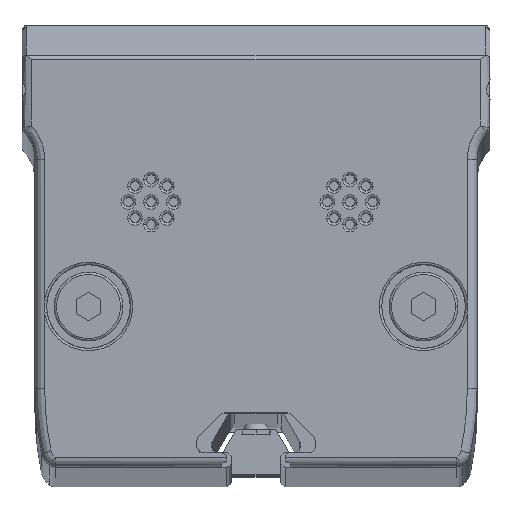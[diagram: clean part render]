
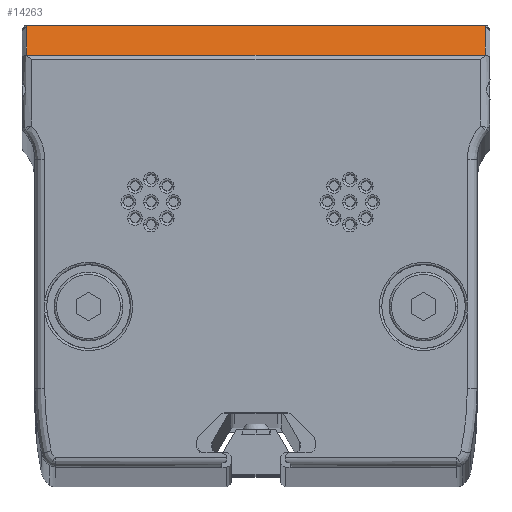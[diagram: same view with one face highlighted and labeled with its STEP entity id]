
A CAD part, top view. The second image highlights one B-rep face of the part: STEP entity #14263.
In plain terms, the highlighted planar face has unit normal (0, 0.858, 0.514).
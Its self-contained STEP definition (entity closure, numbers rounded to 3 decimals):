
#158 = ORIENTED_EDGE ( 'NONE', *, *, #14265, .T. ) ;
#220 = CARTESIAN_POINT ( 'NONE',  ( 23.82, 19.287, 1135.15 ) ) ;
#1118 = VERTEX_POINT ( 'NONE', #13181 ) ;
#1265 = EDGE_CURVE ( 'NONE', #13344, #29202, #17143, .T. ) ;
#2105 = ORIENTED_EDGE ( 'NONE', *, *, #21520, .T. ) ;
#3064 = CARTESIAN_POINT ( 'NONE',  ( -23.215, 22.429, 1129.914 ) ) ;
#3190 = CARTESIAN_POINT ( 'NONE',  ( -23.315, 22.387, 1129.983 ) ) ;
#3693 = EDGE_CURVE ( 'NONE', #23862, #23738, #7069, .T. ) ;
#3820 =( BOUNDED_CURVE ( )  B_SPLINE_CURVE ( 3, ( #23566, #21301, #3190, #19044 ),
 .UNSPECIFIED., .F., .F. ) 
 B_SPLINE_CURVE_WITH_KNOTS ( ( 4, 4 ),
 ( 0., 1.571 ),
 .UNSPECIFIED. ) 
 CURVE ( )  GEOMETRIC_REPRESENTATION_ITEM ( )  RATIONAL_B_SPLINE_CURVE ( ( 1., 0.805, 0.805, 1. ) ) 
 REPRESENTATION_ITEM ( '' )  );
#4631 = CARTESIAN_POINT ( 'NONE',  ( 23.315, 22.329, 1130.08 ) ) ;
#5667 = CARTESIAN_POINT ( 'NONE',  ( -23.315, 19.287, 1135.15 ) ) ;
#5806 = LINE ( 'NONE', #3064, #23891 ) ;
#5813 = CARTESIAN_POINT ( 'NONE',  ( -23.315, 22.329, 1130.08 ) ) ;
#5955 = EDGE_CURVE ( 'NONE', #27310, #27811, #5806, .T. ) ;
#6932 = CARTESIAN_POINT ( 'NONE',  ( 23.215, 22.429, 1129.914 ) ) ;
#7069 =( BOUNDED_CURVE ( )  B_SPLINE_CURVE ( 3, ( #22865, #25442, #27545, #9313 ),
 .UNSPECIFIED., .F., .T. ) 
 B_SPLINE_CURVE_WITH_KNOTS ( ( 4, 4 ),
 ( 4.712, 6.283 ),
 .UNSPECIFIED. ) 
 CURVE ( )  GEOMETRIC_REPRESENTATION_ITEM ( )  RATIONAL_B_SPLINE_CURVE ( ( 1., 0.805, 0.805, 1. ) ) 
 REPRESENTATION_ITEM ( '' )  );
#7171 = DIRECTION ( 'NONE',  ( 0., -0.857, -0.514 ) ) ;
#7293 = CARTESIAN_POINT ( 'NONE',  ( -23.315, 19.433, 1134.907 ) ) ;
#7387 = CARTESIAN_POINT ( 'NONE',  ( 23.215, 22.429, 1129.914 ) ) ;
#7519 = LINE ( 'NONE', #16904, #16164 ) ;
#8103 = ORIENTED_EDGE ( 'NONE', *, *, #26493, .T. ) ;
#9313 = CARTESIAN_POINT ( 'NONE',  ( 23.215, 22.429, 1129.914 ) ) ;
#9430 = LINE ( 'NONE', #27199, #29344 ) ;
#9473 = CARTESIAN_POINT ( 'NONE',  ( -23.215, 22.429, 1129.914 ) ) ;
#9800 = CARTESIAN_POINT ( 'NONE',  ( 23.215, 22.429, 1129.914 ) ) ;
#10787 = ORIENTED_EDGE ( 'NONE', *, *, #1265, .T. ) ;
#11392 = EDGE_LOOP ( 'NONE', ( #15380, #158, #15594, #8103, #16617, #2105, #10787 ) ) ;
#13181 = CARTESIAN_POINT ( 'NONE',  ( 23.315, 19.433, 1134.907 ) ) ;
#13344 = VERTEX_POINT ( 'NONE', #5813 ) ;
#13831 = FACE_OUTER_BOUND ( 'NONE', #11392, .T. ) ;
#14263 = ADVANCED_FACE ( 'NONE', ( #13831 ), #27816, .F. ) ;
#14265 = EDGE_CURVE ( 'NONE', #1118, #23862, #9430, .T. ) ;
#15380 = ORIENTED_EDGE ( 'NONE', *, *, #22570, .T. ) ;
#15594 = ORIENTED_EDGE ( 'NONE', *, *, #3693, .T. ) ;
#16150 = CARTESIAN_POINT ( 'NONE',  ( 23.215, 22.429, 1129.914 ) ) ;
#16164 = VECTOR ( 'NONE', #23505, 1000. ) ;
#16405 = DIRECTION ( 'NONE',  ( 0., 0.514, -0.857 ) ) ;
#16617 = ORIENTED_EDGE ( 'NONE', *, *, #5955, .T. ) ;
#16818 = VECTOR ( 'NONE', #19973, 1000. ) ;
#16904 = CARTESIAN_POINT ( 'NONE',  ( 23.82, 19.433, 1134.907 ) ) ;
#17143 = LINE ( 'NONE', #5667, #16818 ) ;
#18036 = DIRECTION ( 'NONE',  ( 0., 0.514, -0.857 ) ) ;
#19044 = CARTESIAN_POINT ( 'NONE',  ( -23.315, 22.329, 1130.08 ) ) ;
#19747 = AXIS2_PLACEMENT_3D ( 'NONE', #220, #7171, #16405 ) ;
#19973 = DIRECTION ( 'NONE',  ( 0., -0.514, 0.857 ) ) ;
#21301 = CARTESIAN_POINT ( 'NONE',  ( -23.274, 22.429, 1129.914 ) ) ;
#21520 = EDGE_CURVE ( 'NONE', #27811, #13344, #3820, .T. ) ;
#22570 = EDGE_CURVE ( 'NONE', #29202, #1118, #7519, .T. ) ;
#22865 = CARTESIAN_POINT ( 'NONE',  ( 23.315, 22.329, 1130.08 ) ) ;
#23212 = CARTESIAN_POINT ( 'NONE',  ( 23.215, 22.429, 1129.914 ) ) ;
#23505 = DIRECTION ( 'NONE',  ( 1., 0., 0. ) ) ;
#23566 = CARTESIAN_POINT ( 'NONE',  ( -23.215, 22.429, 1129.914 ) ) ;
#23600 = CARTESIAN_POINT ( 'NONE',  ( 23.215, 22.429, 1129.914 ) ) ;
#23738 = VERTEX_POINT ( 'NONE', #9800 ) ;
#23862 = VERTEX_POINT ( 'NONE', #4631 ) ;
#23891 = VECTOR ( 'NONE', #26279, 1000. ) ;
#24246 =( BOUNDED_CURVE ( )  B_SPLINE_CURVE ( 3, ( #6932, #16150, #23212, #7387 ),
 .UNSPECIFIED., .F., .F. ) 
 B_SPLINE_CURVE_WITH_KNOTS ( ( 4, 4 ),
 ( 6.283, 6.283 ),
 .UNSPECIFIED. ) 
 CURVE ( )  GEOMETRIC_REPRESENTATION_ITEM ( )  RATIONAL_B_SPLINE_CURVE ( ( 1., 1., 1., 1. ) ) 
 REPRESENTATION_ITEM ( '' )  );
#25442 = CARTESIAN_POINT ( 'NONE',  ( 23.315, 22.387, 1129.983 ) ) ;
#26279 = DIRECTION ( 'NONE',  ( -1., 0., 0. ) ) ;
#26493 = EDGE_CURVE ( 'NONE', #23738, #27310, #24246, .T. ) ;
#27199 = CARTESIAN_POINT ( 'NONE',  ( 23.315, 19.287, 1135.15 ) ) ;
#27310 = VERTEX_POINT ( 'NONE', #23600 ) ;
#27545 = CARTESIAN_POINT ( 'NONE',  ( 23.274, 22.429, 1129.914 ) ) ;
#27811 = VERTEX_POINT ( 'NONE', #9473 ) ;
#27816 = PLANE ( 'NONE',  #19747 ) ;
#29202 = VERTEX_POINT ( 'NONE', #7293 ) ;
#29344 = VECTOR ( 'NONE', #18036, 1000. ) ;
